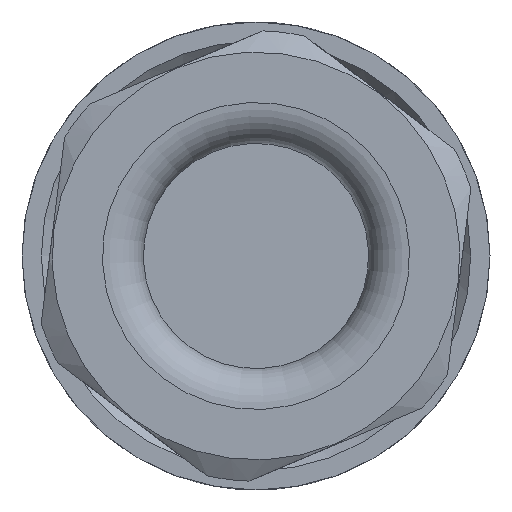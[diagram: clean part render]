
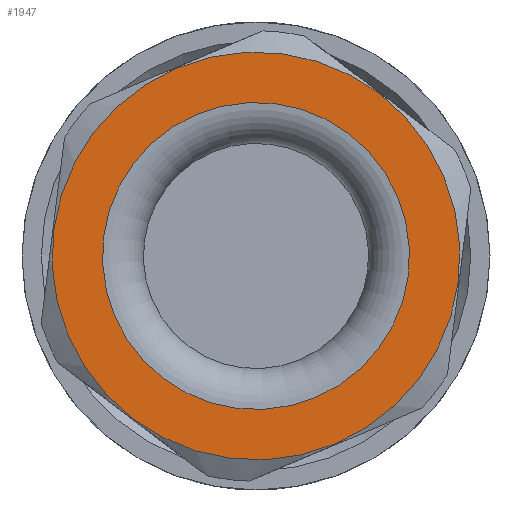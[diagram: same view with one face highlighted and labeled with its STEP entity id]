
A CAD part, front view. The second image highlights one B-rep face of the part: STEP entity #1947.
In plain terms, the highlighted planar face has unit normal (0, -1, 0).
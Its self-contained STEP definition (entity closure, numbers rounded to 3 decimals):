
#1608=CARTESIAN_POINT('',(3.008,-3.7,3.969));
#1609=VERTEX_POINT('',#1608);
#1610=CARTESIAN_POINT('',(0.,-3.7,0.));
#1611=DIRECTION('',(0.,-1.,0.));
#1612=DIRECTION('',(0.604,0.,0.797));
#1613=AXIS2_PLACEMENT_3D('',#1610,#1611,#1612);
#1614=CIRCLE('',#1613,4.98);
#1615=EDGE_CURVE('',#1609,#1609,#1614,.T.);
#1823=CARTESIAN_POINT('',(2.265,-3.7,2.989));
#1824=VERTEX_POINT('',#1823);
#1825=CARTESIAN_POINT('',(0.,-3.7,0.));
#1826=DIRECTION('',(0.,-1.0,0.));
#1827=DIRECTION('',(0.604,0.,0.797));
#1828=AXIS2_PLACEMENT_3D('',#1825,#1826,#1827);
#1829=CIRCLE('',#1828,3.75);
#1830=EDGE_CURVE('',#1824,#1824,#1829,.T.);
#1936=CARTESIAN_POINT('',(2.637,-3.7,3.479));
#1937=DIRECTION('',(0.0,-1.0,0.0));
#1938=DIRECTION('',(-0.797,0.0,0.604));
#1939=AXIS2_PLACEMENT_3D('',#1936,#1937,#1938);
#1940=PLANE('',#1939);
#1941=ORIENTED_EDGE('',*,*,#1615,.T.);
#1942=EDGE_LOOP('',(#1941));
#1943=FACE_OUTER_BOUND('',#1942,.T.);
#1944=ORIENTED_EDGE('',*,*,#1830,.F.);
#1945=EDGE_LOOP('',(#1944));
#1946=FACE_BOUND('',#1945,.T.);
#1947=ADVANCED_FACE('',(#1943,#1946),#1940,.T.);
